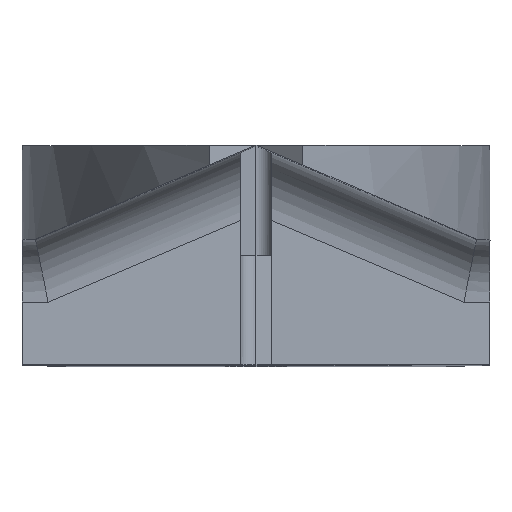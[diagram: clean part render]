
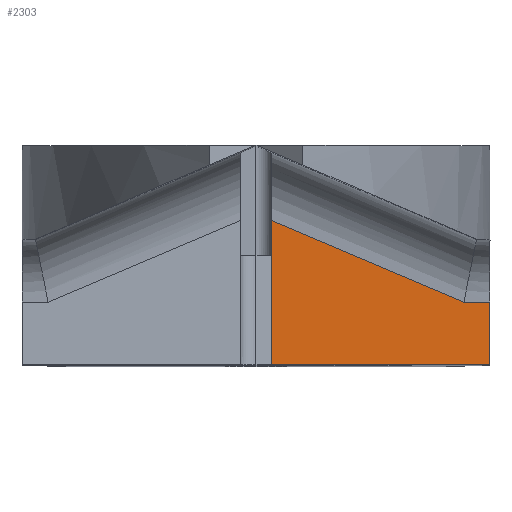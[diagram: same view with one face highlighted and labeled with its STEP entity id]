
A CAD part, top view. The second image highlights one B-rep face of the part: STEP entity #2303.
In plain terms, the highlighted planar face has unit normal (0, 0, 1).
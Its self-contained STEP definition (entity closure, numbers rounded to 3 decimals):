
#86 = EDGE_CURVE ( 'NONE', #422, #2488, #2055, .T. ) ;
#145 = CARTESIAN_POINT ( 'NONE',  ( 0.5, 0., 11. ) ) ;
#330 = LINE ( 'NONE', #882, #2828 ) ;
#357 = DIRECTION ( 'NONE',  ( 0.921, -0.391, 0. ) ) ;
#422 = VERTEX_POINT ( 'NONE', #2800 ) ;
#425 = EDGE_CURVE ( 'NONE', #1073, #823, #330, .T. ) ;
#428 = ORIENTED_EDGE ( 'NONE', *, *, #861, .F. ) ;
#453 = DIRECTION ( 'NONE',  ( -1., 0., 0. ) ) ;
#530 = CARTESIAN_POINT ( 'NONE',  ( 0.5, 4.615, 11. ) ) ;
#545 = CARTESIAN_POINT ( 'NONE',  ( 0.5, 0., 11. ) ) ;
#625 = DIRECTION ( 'NONE',  ( 0., 0., 1. ) ) ;
#663 = FACE_OUTER_BOUND ( 'NONE', #906, .T. ) ;
#687 = CARTESIAN_POINT ( 'NONE',  ( 6.661, 2., 11. ) ) ;
#823 = VERTEX_POINT ( 'NONE', #687 ) ;
#861 = EDGE_CURVE ( 'NONE', #2488, #1364, #2623, .T. ) ;
#882 = CARTESIAN_POINT ( 'NONE',  ( 3.19, 3.473, 11. ) ) ;
#906 = EDGE_LOOP ( 'NONE', ( #428, #1559, #2279, #2750, #2414 ) ) ;
#992 = CARTESIAN_POINT ( 'NONE',  ( 7.5, 3.5, 11. ) ) ;
#1073 = VERTEX_POINT ( 'NONE', #530 ) ;
#1117 = PLANE ( 'NONE',  #1267 ) ;
#1267 = AXIS2_PLACEMENT_3D ( 'NONE', #145, #625, #2334 ) ;
#1364 = VERTEX_POINT ( 'NONE', #545 ) ;
#1460 = EDGE_CURVE ( 'NONE', #422, #823, #1804, .T. ) ;
#1559 = ORIENTED_EDGE ( 'NONE', *, *, #86, .F. ) ;
#1695 = CARTESIAN_POINT ( 'NONE',  ( 3.979, 0., 11. ) ) ;
#1804 = LINE ( 'NONE', #1961, #2937 ) ;
#1883 = VECTOR ( 'NONE', #2273, 1000. ) ;
#1887 = VECTOR ( 'NONE', #1959, 1000. ) ;
#1889 = EDGE_CURVE ( 'NONE', #1364, #1073, #2930, .T. ) ;
#1959 = DIRECTION ( 'NONE',  ( -1., 0., 0. ) ) ;
#1961 = CARTESIAN_POINT ( 'NONE',  ( 4., 2., 11. ) ) ;
#1966 = DIRECTION ( 'NONE',  ( 0., 1., 0. ) ) ;
#2055 = LINE ( 'NONE', #992, #1883 ) ;
#2273 = DIRECTION ( 'NONE',  ( 0., -1., 0. ) ) ;
#2279 = ORIENTED_EDGE ( 'NONE', *, *, #1460, .T. ) ;
#2303 = ADVANCED_FACE ( 'NONE', ( #663 ), #1117, .T. ) ;
#2309 = VECTOR ( 'NONE', #1966, 1000. ) ;
#2334 = DIRECTION ( 'NONE',  ( 1., 0., 0. ) ) ;
#2414 = ORIENTED_EDGE ( 'NONE', *, *, #1889, .F. ) ;
#2488 = VERTEX_POINT ( 'NONE', #3078 ) ;
#2568 = CARTESIAN_POINT ( 'NONE',  ( 0.5, 3.5, 11. ) ) ;
#2623 = LINE ( 'NONE', #1695, #1887 ) ;
#2750 = ORIENTED_EDGE ( 'NONE', *, *, #425, .F. ) ;
#2800 = CARTESIAN_POINT ( 'NONE',  ( 7.5, 2., 11. ) ) ;
#2828 = VECTOR ( 'NONE', #357, 1000. ) ;
#2930 = LINE ( 'NONE', #2568, #2309 ) ;
#2937 = VECTOR ( 'NONE', #453, 1000. ) ;
#3078 = CARTESIAN_POINT ( 'NONE',  ( 7.5, 0., 11. ) ) ;
